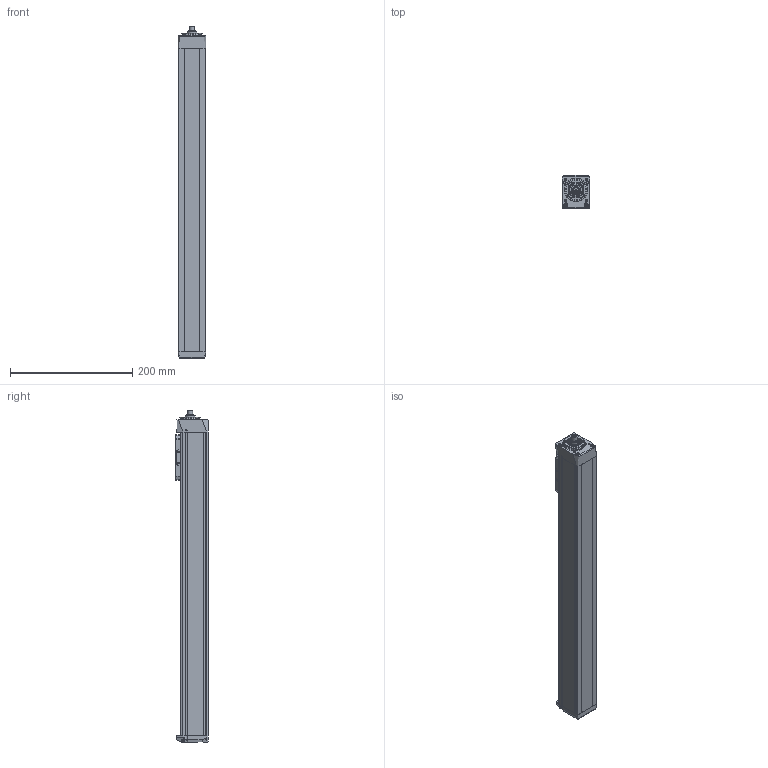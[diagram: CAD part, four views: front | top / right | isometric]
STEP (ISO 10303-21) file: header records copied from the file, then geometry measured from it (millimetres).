
FILE_DESCRIPTION(/* description */ ('STEP AP214'),/* implementation_level */ '2;1');
FILE_NAME(/* name */ 'MGBS 45 1003 400(0)',/* time_stamp */ '2023-04-12T11:08:38+02:00',/* author */ ('License CC BY-ND 4.0'),/* organization */ ('CADENAS'),/* preprocessor_version */ 'ST-DEVELOPER v19.3',/* originating_system */ 'PARTsolutions',/* authorisation */ ' ');
FILE_SCHEMA (('AUTOMOTIVE_DESIGN {1 0 10303 214 3 1 1}'));
Length unit declared in the file: millimetre
Products named in the file (6): MGBS 45 1003 400(0); MGBS 45 400_protection_strip; MGBS 45_carriage; MGBS 45_end_block; MGBS 45 400_profile; MGBS 45_drive_block
Assembly tree (5 placements, depth 2):
  MGBS 45 1003 400(0)
    MGBS 45 400_protection_strip
    MGBS 45_carriage
    MGBS 45_end_block
    MGBS 45 400_profile
    MGBS 45_drive_block
Bounding box: 45 x 54 x 543 mm (x, y, z)
Volume: 1042741.2 mm3; surface area: 172965.2 mm2
Topology: 5 solids, 5 shells, 655 faces, 1721 edges, 1113 vertices
Faces by surface type: plane 312, cylinder 156, cone 94, bspline 64, torus 27, sphere 2
Full cylindrical faces by diameter (mm): 1 x1, 1.755 x4, 2.459 x6, 2.46 x2, 2.5 x8, 3 x4, 3.242 x8, 3.8 x6, 4 x2, 4.5 x4, 5 x2, 5.5 x4, 6.5 x4, 8 x1, 11 x2, 16 x1, 24.5 x1, 34 x2, 38.2 x1
Entity records: 23967 total; most frequent: CARTESIAN_POINT 4130, DIRECTION 3272, ORIENTED_EDGE 3064, EDGE_CURVE 1532, AXIS2_PLACEMENT_3D 1183, VERTEX_POINT 1095, LINE 906, VECTOR 906
